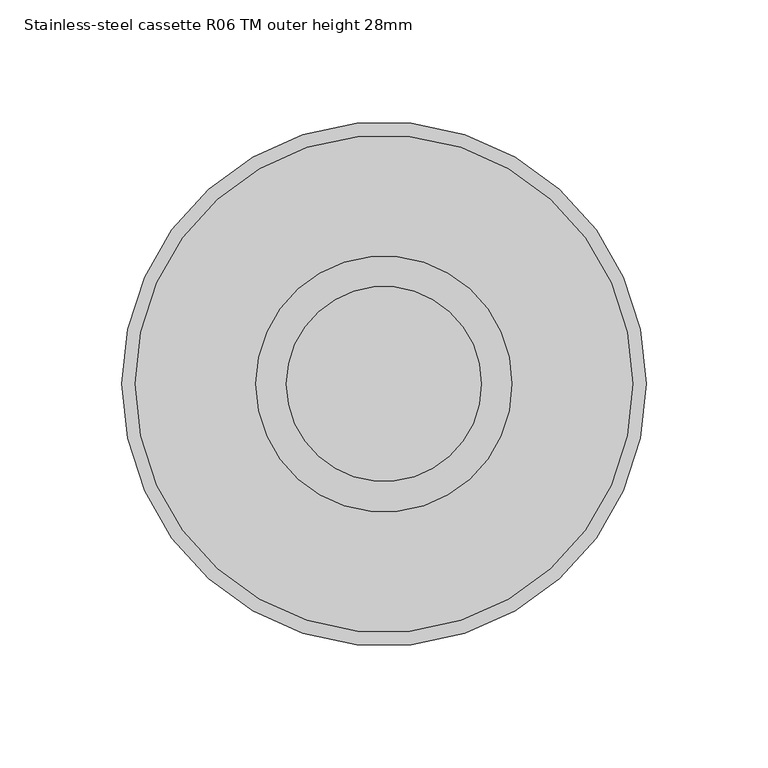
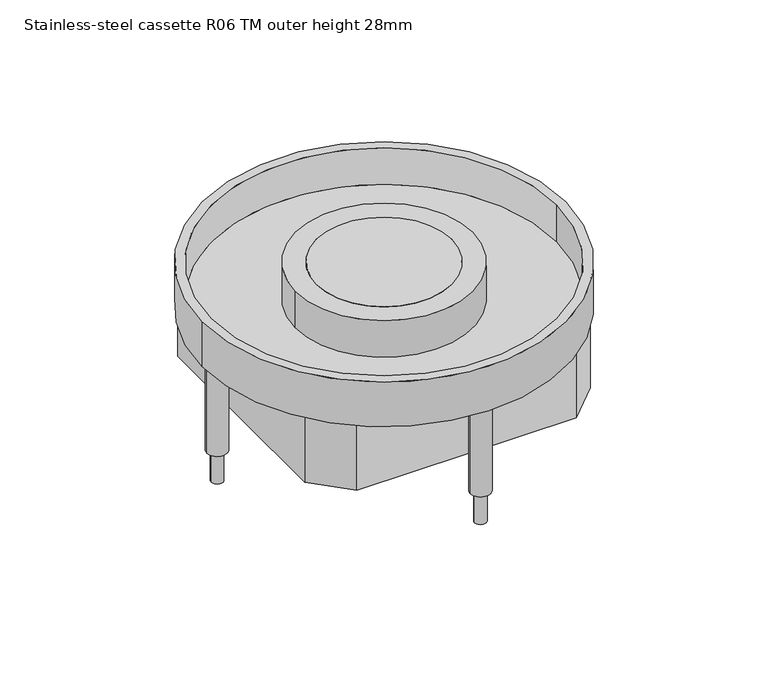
"""IFC4 building model written with IfcOpenShell, lengths in millimetres: proxy geometry, Electrical_Installation_Hager_VE-EE_EKR-Height-adjustable-stainless-steel-cassette-with-tube-mounting-set-round-for-damp-cleaned-floors : Stainless-steel cassette R06 TM outer height 28mm."""

from ifc_helpers import new_model, si_unit, point, frame, frame_2d, origin, origin_with_axes, origin_2d, place, context, project, spatial, polyline, circle_curve, trimmed, segment, composite_curve, outline, extrude, source, transform, mapped, element, save
from ifc_brep_helpers import plane_surface, cylinder_surface, revolved_surface, advanced_brep


def stainless_steel_cassette_r06_tm_outer_height_28mm_dfc4136d(model_context):
    return source(origin(), model_context, "Body", "SolidModel", [
        extrude(outline(composite_curve([segment(trimmed(circle_curve(origin_2d(), 40.0), [point((-40.0, 0.0))], [point((40.0, 0.0))], False, "CARTESIAN"), True, "CONTINUOUS"), segment(trimmed(circle_curve(origin_2d(), 40.0), [point((40.0, 0.0))], [point((-40.0, 0.0))], False, "CARTESIAN"), True, "CONTINUOUS")], self_intersect=False)), origin_with_axes(), (0.0, 0.0, 1.0), 2.011943),
        advanced_brep(
        [(-52.5, 0.0, 2.011943), (52.5, 0.0, 2.011943), (-40.0, 0.0, 2.011943), (40.0, 0.0, 2.011943), (-52.5, 0.0, -20.988057), (52.5, 0.0, -20.988057), (-40.0, 0.0, -20.988057), (40.0, 0.0, -20.988057), (-52.5, 0.0, 0.0), (52.5, 0.0, 0.0), (-40.0, 0.0, 0.0), (40.0, 0.0, 0.0)],
        [
            (0, 1, circle_curve(frame((0.0, 0.0, 2.011943), z_axis=(0.0, 0.0, 1.0), x_axis=(1.0, 0.0, 0.0)), 52.5)),
            (1, 0, circle_curve(frame((0.0, 0.0, 2.011943), z_axis=(0.0, 0.0, 1.0), x_axis=(1.0, 0.0, 0.0)), 52.5)),
            (2, 3, circle_curve(frame((0.0, 0.0, 2.011943), z_axis=(0.0, 0.0, -1.0), x_axis=(1.0, 0.0, 0.0)), 40.0)),
            (3, 2, circle_curve(frame((0.0, 0.0, 2.011943), z_axis=(0.0, 0.0, -1.0), x_axis=(1.0, 0.0, 0.0)), 40.0)),
            (4, 5, circle_curve(frame((0.0, 0.0, -20.988057), z_axis=(0.0, 0.0, -1.0), x_axis=(1.0, 0.0, 0.0)), 52.5)),
            (5, 4, circle_curve(frame((0.0, 0.0, -20.988057), z_axis=(0.0, 0.0, -1.0), x_axis=(1.0, 0.0, 0.0)), 52.5)),
            (6, 7, circle_curve(frame((0.0, 0.0, -20.988057), z_axis=(0.0, 0.0, 1.0), x_axis=(1.0, 0.0, 0.0)), 40.0)),
            (7, 6, circle_curve(frame((0.0, 0.0, -20.988057), z_axis=(0.0, 0.0, 1.0), x_axis=(1.0, 0.0, 0.0)), 40.0)),
            (0, 8),
            (8, 4),
            (5, 9),
            (9, 1),
            (2, 10),
            (10, 6),
            (7, 11),
            (11, 3),
        ],
        [
            plane_surface(frame((52.5, 0.0, 2.011943), z_axis=(0.0, 0.0, 1.0), x_axis=(0.0, 1.0, 0.0))),
            plane_surface(frame((52.5, 0.0, -20.988057), z_axis=(0.0, 0.0, -1.0), x_axis=(0.0, -1.0, 0.0))),
            cylinder_surface(frame((0.0, 0.0, -20.988057), z_axis=(0.0, 0.0, 1.0), x_axis=(1.0, 0.0, 0.0)), 52.5),
            revolved_surface(polyline([(40.0, 0.0, -20.988057), (40.0, 0.0, 2.011943)]), (0.0, 0.0, 0.0), (0.0, 0.0, -1.0)),
        ],
        [
            (0, [[1, 2], [3, 4]]),
            (1, [[5, 6], [7, 8]]),
            (2, [[-1, 9, 10, -6, 11, 12]]),
            (2, [[-2, -12, -11, -5, -10, -9]]),
            (3, [[-3, 13, 14, -8, 15, 16]]),
            (3, [[-4, -16, -15, -7, -14, -13]]),
        ],
    ),
        extrude(outline(composite_curve([segment(trimmed(circle_curve(frame_2d((-98.8, 0.0)), 3.5), [point((-102.3, 0.0))], [point((-95.3, 0.0))], False, "CARTESIAN"), True, "CONTINUOUS"), segment(trimmed(circle_curve(frame_2d((-98.8, 0.0)), 3.5), [point((-95.3, 0.0))], [point((-102.3, 0.0))], False, "CARTESIAN"), True, "CONTINUOUS")], self_intersect=False)), frame((0.0, 0.0, -100.0), z_axis=(0.0, 0.0, 1.0), x_axis=(1.0, 0.0, 0.0)), (0.0, 0.0, 1.0), 74.011943),
        extrude(outline(composite_curve([segment(trimmed(circle_curve(frame_2d((0.0, 98.8)), 3.5), [point((-3.5, 98.8))], [point((3.5, 98.8))], False, "CARTESIAN"), True, "CONTINUOUS"), segment(trimmed(circle_curve(frame_2d((0.0, 98.8)), 3.5), [point((3.5, 98.8))], [point((-3.5, 98.8))], False, "CARTESIAN"), True, "CONTINUOUS")], self_intersect=False)), frame((0.0, 0.0, -100.0), z_axis=(0.0, 0.0, 1.0), x_axis=(1.0, 0.0, 0.0)), (0.0, 0.0, 1.0), 74.011943),
        extrude(outline(composite_curve([segment(trimmed(circle_curve(frame_2d((98.8, 0.0)), 3.548869), [point((95.251131, 0.0))], [point((102.348869, 0.0))], False, "CARTESIAN"), True, "CONTINUOUS"), segment(trimmed(circle_curve(frame_2d((98.8, 0.0)), 3.548869), [point((102.348869, 0.0))], [point((95.251131, 0.0))], False, "CARTESIAN"), True, "CONTINUOUS")], self_intersect=False)), frame((0.0, 0.0, -100.0), z_axis=(0.0, 0.0, 1.0), x_axis=(1.0, 0.0, 0.0)), (0.0, 0.0, 1.0), 74.011943),
        extrude(outline(composite_curve([segment(trimmed(circle_curve(frame_2d((0.0, -98.8)), 3.5), [point((-3.5, -98.8))], [point((3.5, -98.8))], False, "CARTESIAN"), True, "CONTINUOUS"), segment(trimmed(circle_curve(frame_2d((0.0, -98.8)), 3.5), [point((3.5, -98.8))], [point((-3.5, -98.8))], False, "CARTESIAN"), True, "CONTINUOUS")], self_intersect=False)), frame((0.0, 0.0, -100.0), z_axis=(0.0, 0.0, 1.0), x_axis=(1.0, 0.0, 0.0)), (0.0, 0.0, 1.0), 74.011943),
        advanced_brep(
        [(102.0, 0.0, -20.988057), (-102.0, 0.0, -20.988057), (-40.0, 0.0, -20.988057), (40.0, 0.0, -20.988057), (-107.5, 0.0, -25.988057), (107.5, 0.0, -25.988057), (-40.0, 0.0, -25.988057), (40.0, 0.0, -25.988057), (-107.5, 0.0, 2.011943), (107.5, 0.0, 2.011943), (-102.0, 0.0, 2.011943), (102.0, 0.0, 2.011943)],
        [
            (0, 1, circle_curve(frame((0.0, 0.0, -20.988057), z_axis=(0.0, 0.0, 1.0), x_axis=(1.0, 0.0, 0.0)), 102.0)),
            (1, 0, circle_curve(frame((0.0, 0.0, -20.988057), z_axis=(0.0, 0.0, 1.0), x_axis=(1.0, 0.0, 0.0)), 102.0)),
            (2, 3, circle_curve(frame((0.0, 0.0, -20.988057), z_axis=(0.0, 0.0, -1.0), x_axis=(1.0, 0.0, 0.0)), 40.0)),
            (3, 2, circle_curve(frame((0.0, 0.0, -20.988057), z_axis=(0.0, 0.0, -1.0), x_axis=(1.0, 0.0, 0.0)), 40.0)),
            (4, 5, circle_curve(frame((0.0, 0.0, -25.988057), z_axis=(0.0, 0.0, -1.0), x_axis=(1.0, 0.0, 0.0)), 107.5)),
            (5, 4, circle_curve(frame((0.0, 0.0, -25.988057), z_axis=(0.0, 0.0, -1.0), x_axis=(1.0, 0.0, 0.0)), 107.5)),
            (6, 7, circle_curve(frame((0.0, 0.0, -25.988057), z_axis=(0.0, 0.0, 1.0), x_axis=(1.0, 0.0, 0.0)), 40.0)),
            (7, 6, circle_curve(frame((0.0, 0.0, -25.988057), z_axis=(0.0, 0.0, 1.0), x_axis=(1.0, 0.0, 0.0)), 40.0)),
            (8, 9, circle_curve(frame((0.0, 0.0, 2.011943), z_axis=(0.0, 0.0, 1.0), x_axis=(1.0, 0.0, 0.0)), 107.5)),
            (9, 8, circle_curve(frame((0.0, 0.0, 2.011943), z_axis=(0.0, 0.0, 1.0), x_axis=(1.0, 0.0, 0.0)), 107.5)),
            (10, 11, circle_curve(frame((0.0, 0.0, 2.011943), z_axis=(0.0, 0.0, -1.0), x_axis=(1.0, 0.0, 0.0)), 102.0)),
            (11, 10, circle_curve(frame((0.0, 0.0, 2.011943), z_axis=(0.0, 0.0, -1.0), x_axis=(1.0, 0.0, 0.0)), 102.0)),
            (8, 4),
            (5, 9),
            (10, 1),
            (0, 11),
            (2, 6),
            (7, 3),
        ],
        [
            plane_surface(frame((102.0, 0.0, -20.988057), z_axis=(0.0, 0.0, 1.0), x_axis=(0.0, 1.0, 0.0))),
            plane_surface(frame((102.0, 0.0, -25.988057), z_axis=(0.0, 0.0, -1.0), x_axis=(0.0, -1.0, 0.0))),
            plane_surface(frame((107.5, 0.0, 2.011943), z_axis=(0.0, 0.0, 1.0), x_axis=(0.0, 1.0, 0.0))),
            cylinder_surface(frame((0.0, 0.0, -25.988057), z_axis=(0.0, 0.0, 1.0), x_axis=(1.0, 0.0, 0.0)), 107.5),
            revolved_surface(polyline([(102.0, 0.0, -20.988057), (102.0, 0.0, 2.011943)]), (0.0, 0.0, 0.0), (0.0, 0.0, -1.0)),
            revolved_surface(polyline([(40.0, 0.0, -25.988057), (40.0, 0.0, -20.988057)]), (0.0, 0.0, 0.0), (0.0, 0.0, -1.0)),
        ],
        [
            (0, [[1, 2], [3, 4]]),
            (1, [[5, 6], [7, 8]]),
            (2, [[9, 10], [11, 12]]),
            (3, [[-9, 13, -6, 14]]),
            (3, [[-10, -14, -5, -13]]),
            (4, [[-11, 15, -1, 16]]),
            (4, [[-12, -16, -2, -15]]),
            (5, [[-3, 17, -8, 18]]),
            (5, [[-4, -18, -7, -17]]),
        ],
    ),
        extrude(outline(polyline([(64.9818914, 84.5), (84.5, 64.9818914), (84.5, -64.9818914), (64.9818914, -84.5), (-64.9818914, -84.5), (-84.5, -64.9818914), (-84.5, 64.9818914), (-64.9818914, 84.5), (64.9818914, 84.5)]), holes=[polyline([(-81.5, 63.8602374), (-81.5, -63.8602374), (-63.8602374, -81.5), (63.8602374, -81.5), (81.5, -63.8602374), (81.5, 63.8602374), (63.8602374, 81.5), (-63.8602374, 81.5), (-81.5, 63.8602374)])]), frame((0.0, 0.0, -66.9261016), z_axis=(0.0, 0.0, 1.0), x_axis=(1.0, 0.0, 0.0)), (0.0, 0.0, 1.0), 40.9380446),
        extrude(outline(composite_curve([segment(trimmed(circle_curve(frame_2d((0.0, 98.8)), 5.9738904), [point((-5.9738904, 98.8))], [point((5.9738904, 98.8))], False, "CARTESIAN"), True, "CONTINUOUS"), segment(trimmed(circle_curve(frame_2d((0.0, 98.8)), 5.9738904), [point((5.9738904, 98.8))], [point((-5.9738904, 98.8))], False, "CARTESIAN"), True, "CONTINUOUS")], self_intersect=False)), frame((0.0, 0.0, -81.0371838), z_axis=(0.0, 0.0, 1.0), x_axis=(1.0, 0.0, 0.0)), (0.0, 0.0, 1.0), 55.0491267),
        extrude(outline(composite_curve([segment(trimmed(circle_curve(frame_2d((98.8, 0.0)), 6.0), [point((92.8, 0.0))], [point((104.8, 0.0))], False, "CARTESIAN"), True, "CONTINUOUS"), segment(trimmed(circle_curve(frame_2d((98.8, 0.0)), 6.0), [point((104.8, 0.0))], [point((92.8, 0.0))], False, "CARTESIAN"), True, "CONTINUOUS")], self_intersect=False)), frame((0.0, 0.0, -81.0371838), z_axis=(0.0, 0.0, 1.0), x_axis=(1.0, 0.0, 0.0)), (0.0, 0.0, 1.0), 55.0491267),
        extrude(outline(composite_curve([segment(trimmed(circle_curve(frame_2d((0.0, -98.8)), 6.0), [point((-6.0, -98.8))], [point((6.0, -98.8))], False, "CARTESIAN"), True, "CONTINUOUS"), segment(trimmed(circle_curve(frame_2d((0.0, -98.8)), 6.0), [point((6.0, -98.8))], [point((-6.0, -98.8))], False, "CARTESIAN"), True, "CONTINUOUS")], self_intersect=False)), frame((0.0, 0.0, -81.0371838), z_axis=(0.0, 0.0, 1.0), x_axis=(1.0, 0.0, 0.0)), (0.0, 0.0, 1.0), 55.0491267),
        extrude(outline(composite_curve([segment(trimmed(circle_curve(frame_2d((-98.8, 0.0)), 6.0), [point((-104.8, 0.0))], [point((-92.8, 0.0))], False, "CARTESIAN"), True, "CONTINUOUS"), segment(trimmed(circle_curve(frame_2d((-98.8, 0.0)), 6.0), [point((-92.8, 0.0))], [point((-104.8, 0.0))], False, "CARTESIAN"), True, "CONTINUOUS")], self_intersect=False)), frame((0.0, 0.0, -81.0371838), z_axis=(0.0, 0.0, 1.0), x_axis=(1.0, 0.0, 0.0)), (0.0, 0.0, 1.0), 55.0491267),
    ])


if __name__ == "__main__":
    model = new_model("IFC4")
    model_context = context("Model", 3, world=origin())
    ifc_project = project(units=[si_unit("LENGTHUNIT", "METRE", prefix="MILLI")], contexts=[model_context])
    site = spatial("IfcSite", under=ifc_project)
    building = spatial("IfcBuilding", under=site)
    placement = place(None, origin())
    stainless_steel_cassette_r06_tm_outer_height_28mm_shape = stainless_steel_cassette_r06_tm_outer_height_28mm_dfc4136d(model_context)
    element("IfcBuildingElementProxy", 1, Name="Electrical_Installation_Hager_VE-EE_EKR-Height-adjustable-stainless-steel-cassette-with-tube-mounting-set-round-for-damp-cleaned-floors : Stainless-steel cassette R06 TM outer height 28mm", ObjectType="Electrical_Installation_Hager_VE-EE_EKR-Height-adjustable-stainless-steel-cassette-with-tube-mounting-set-round-for-damp-cleaned-floors : Stainless-steel cassette R06 TM outer height 28mm", at=placement, inside=building, context=model_context, shape_type="MappedRepresentation", body=[
        mapped(stainless_steel_cassette_r06_tm_outer_height_28mm_shape, transform((0.0, 0.0, 0.0), x_axis=(1.0, 0.0, 0.0), y_axis=(0.0, 1.0, 0.0), z_axis=(0.0, 0.0, 1.0))),
    ])
    save(model, "model.ifc")
